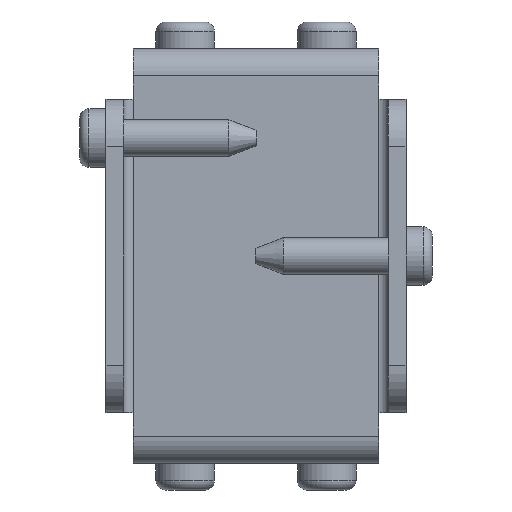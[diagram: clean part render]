
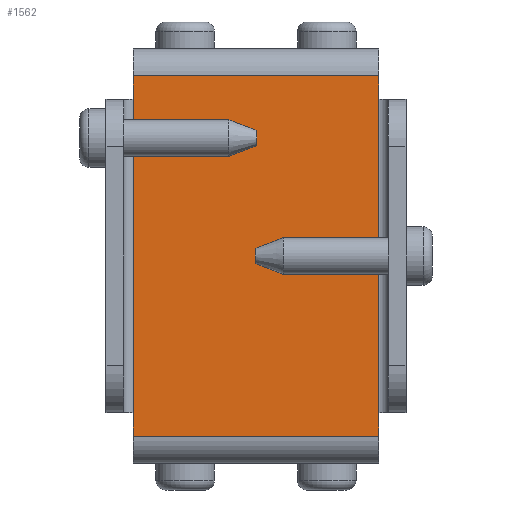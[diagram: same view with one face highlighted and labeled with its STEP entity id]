
A CAD part, front view. The second image highlights one B-rep face of the part: STEP entity #1562.
In plain terms, the highlighted planar face has unit normal (0, -1, 0).
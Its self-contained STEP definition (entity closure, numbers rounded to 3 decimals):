
#142=LINE('',#2477,#270);
#157=LINE('',#2525,#285);
#161=LINE('',#2541,#289);
#162=LINE('',#2543,#290);
#163=LINE('',#2545,#291);
#164=LINE('',#2546,#292);
#165=LINE('',#2548,#293);
#166=LINE('',#2550,#294);
#270=VECTOR('',#2005,1000.);
#285=VECTOR('',#2038,1000.);
#289=VECTOR('',#2054,1000.);
#290=VECTOR('',#2057,1000.);
#291=VECTOR('',#2058,1000.);
#292=VECTOR('',#2059,1000.);
#293=VECTOR('',#2060,1000.);
#294=VECTOR('',#2061,1000.);
#541=ORIENTED_EDGE('',*,*,#888,.T.);
#542=ORIENTED_EDGE('',*,*,#889,.F.);
#543=ORIENTED_EDGE('',*,*,#879,.T.);
#544=ORIENTED_EDGE('',*,*,#890,.F.);
#545=ORIENTED_EDGE('',*,*,#891,.F.);
#546=ORIENTED_EDGE('',*,*,#892,.T.);
#547=ORIENTED_EDGE('',*,*,#856,.F.);
#548=ORIENTED_EDGE('',*,*,#887,.T.);
#856=EDGE_CURVE('',#1046,#1047,#142,.T.);
#879=EDGE_CURVE('',#1059,#1069,#157,.T.);
#887=EDGE_CURVE('',#1046,#1075,#161,.T.);
#888=EDGE_CURVE('',#1075,#1076,#162,.T.);
#889=EDGE_CURVE('',#1059,#1076,#163,.T.);
#890=EDGE_CURVE('',#1077,#1069,#164,.T.);
#891=EDGE_CURVE('',#1078,#1077,#165,.T.);
#892=EDGE_CURVE('',#1078,#1047,#166,.T.);
#1046=VERTEX_POINT('',#2478);
#1047=VERTEX_POINT('',#2479);
#1059=VERTEX_POINT('',#2504);
#1069=VERTEX_POINT('',#2524);
#1075=VERTEX_POINT('',#2540);
#1076=VERTEX_POINT('',#2544);
#1077=VERTEX_POINT('',#2547);
#1078=VERTEX_POINT('',#2549);
#1273=EDGE_LOOP('',(#541,#542,#543,#544,#545,#546,#547,#548));
#1401=FACE_BOUND('',#1273,.T.);
#1503=PLANE('',#1722);
#1562=ADVANCED_FACE('',(#1401),#1503,.F.);
#1722=AXIS2_PLACEMENT_3D('',#2542,#2055,#2056);
#2005=DIRECTION('',(1.,0.,0.));
#2038=DIRECTION('',(1.,0.,0.));
#2054=DIRECTION('',(0.,0.,-1.));
#2055=DIRECTION('',(0.,1.,0.));
#2056=DIRECTION('',(0.,0.,1.));
#2057=DIRECTION('',(1.,0.,0.));
#2058=DIRECTION('',(-1.,0.,0.));
#2059=DIRECTION('',(0.,0.,-1.));
#2060=DIRECTION('',(1.,0.,0.));
#2061=DIRECTION('',(-1.,0.,0.));
#2477=CARTESIAN_POINT('',(2.9,0.,13.));
#2478=CARTESIAN_POINT('',(2.9,0.,13.));
#2479=CARTESIAN_POINT('',(5.4,0.,13.));
#2504=CARTESIAN_POINT('',(38.6,0.,-13.));
#2524=CARTESIAN_POINT('',(41.1,0.,-13.));
#2525=CARTESIAN_POINT('',(2.9,0.,-13.));
#2540=CARTESIAN_POINT('',(2.9,0.,-13.));
#2541=CARTESIAN_POINT('',(2.9,0.,13.));
#2542=CARTESIAN_POINT('',(2.9,0.,13.));
#2543=CARTESIAN_POINT('',(2.9,0.,-13.));
#2544=CARTESIAN_POINT('',(5.4,0.,-13.));
#2545=CARTESIAN_POINT('',(38.6,0.,-13.));
#2546=CARTESIAN_POINT('',(41.1,0.,13.));
#2547=CARTESIAN_POINT('',(41.1,0.,13.));
#2548=CARTESIAN_POINT('',(2.9,0.,13.));
#2549=CARTESIAN_POINT('',(38.6,0.,13.));
#2550=CARTESIAN_POINT('',(38.6,0.,13.));
